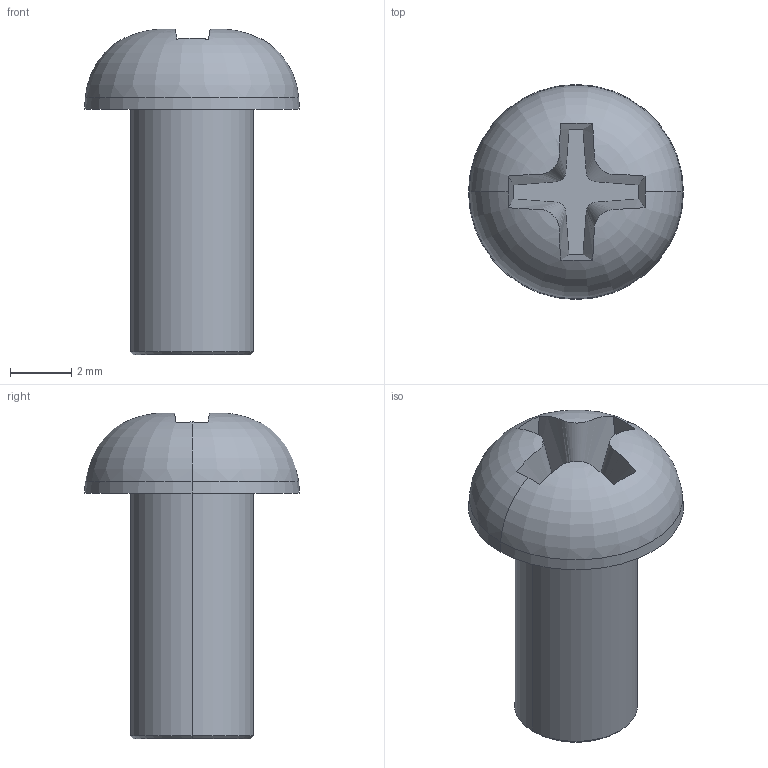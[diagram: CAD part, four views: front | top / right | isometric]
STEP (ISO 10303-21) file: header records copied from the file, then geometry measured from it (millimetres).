
FILE_DESCRIPTION (( 'STEP AP214' ), '1' );
FILE_NAME ('SCREW M4 X8 MM.STEP', '2024-06-18T04:26:37', ( '' ), ( '' ), 'SwSTEP 2.0', 'SolidWorks 2023', '' );
FILE_SCHEMA (( 'AUTOMOTIVE_DESIGN' ));
Length unit declared in the file: millimetre
Products named in the file (1): SCREW M4 X8 MM
Bounding box: 7 x 7 x 10.6 mm (x, y, z)
Volume: 162.7 mm3; surface area: 234.6 mm2
Topology: 1 solids, 1 shells, 21 faces, 58 edges, 40 vertices
Faces by surface type: plane 9, cone 4, bspline 4, torus 2, cylinder 2
Entity records: 901 total; most frequent: CARTESIAN_POINT 356, ORIENTED_EDGE 116, DIRECTION 98, EDGE_CURVE 58, VERTEX_POINT 40, AXIS2_PLACEMENT_3D 36, LINE 26, VECTOR 26
